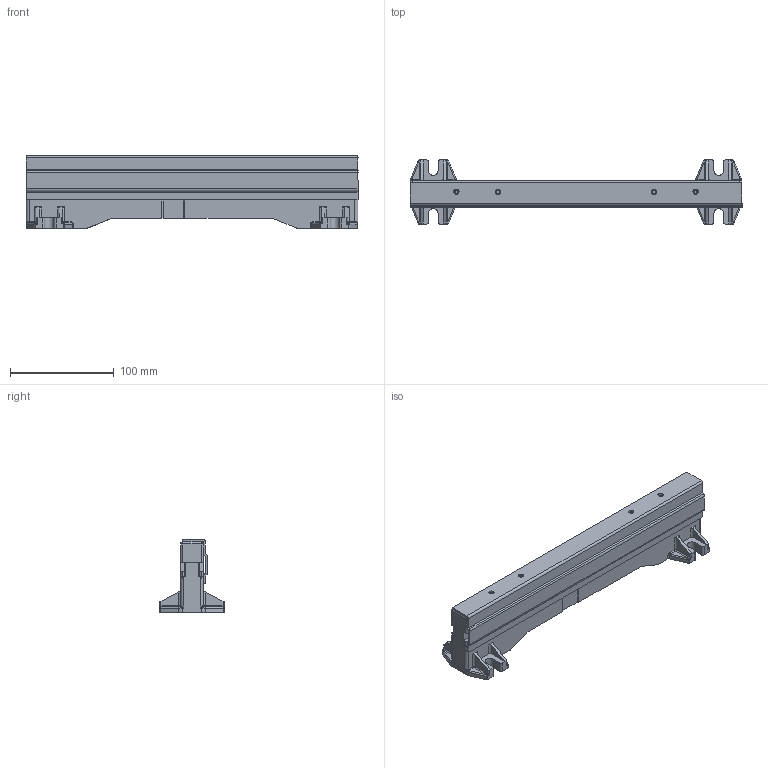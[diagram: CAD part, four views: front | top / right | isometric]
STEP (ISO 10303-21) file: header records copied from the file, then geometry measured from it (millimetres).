
FILE_DESCRIPTION (( 'STEP AP214' ), '1' );
FILE_NAME ('52479.STEP', '2021-08-11T02:58:28', ( '' ), ( '' ), 'SwSTEP 2.0', 'SolidWorks 2017', '' );
FILE_SCHEMA (( 'AUTOMOTIVE_DESIGN' ));
Length unit declared in the file: millimetre
Products named in the file (2): 52479
Bounding box: 320 x 61.8 x 69.7 mm (x, y, z)
Volume: 405544.9 mm3; surface area: 161222.9 mm2
Topology: 16 solids, 26 shells, 1450 faces, 3846 edges, 2473 vertices
Faces by surface type: plane 734, cylinder 440, bspline 216, cone 60
Full cylindrical faces by diameter (mm): 3 x6, 5 x4, 5.2 x4, 5.5 x4, 6 x116, 6.5 x12, 8 x7, 9.5 x2, 10 x4, 12 x4
Entity records: 73804 total; most frequent: CARTESIAN_POINT 28900, ORIENTED_EDGE 6742, DIRECTION 5606, EDGE_CURVE 3371, VERTEX_POINT 2221, LINE 2126, VECTOR 2126, AXIS2_PLACEMENT_3D 1740
